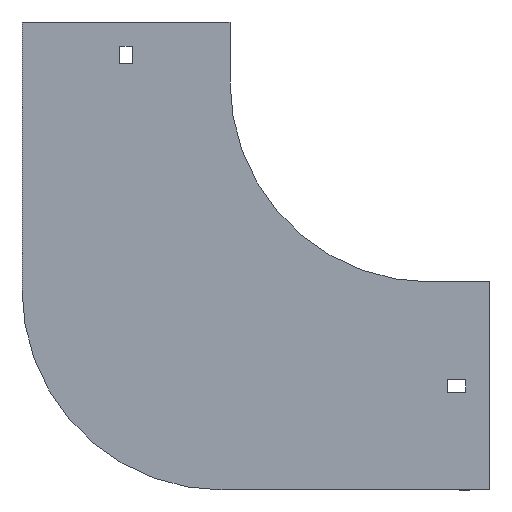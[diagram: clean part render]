
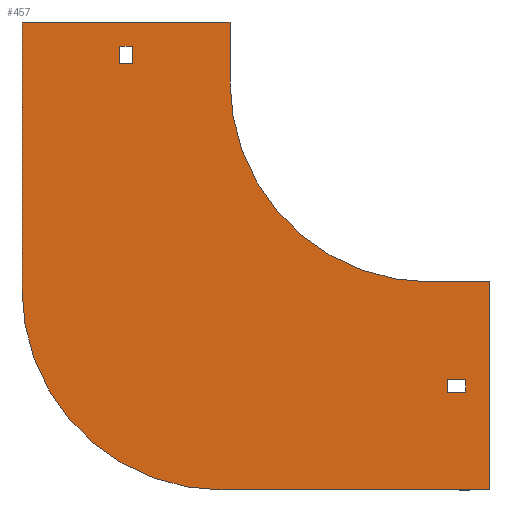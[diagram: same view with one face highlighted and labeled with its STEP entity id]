
A CAD part, front view. The second image highlights one B-rep face of the part: STEP entity #457.
In plain terms, the highlighted planar face has unit normal (0, -1, 0).
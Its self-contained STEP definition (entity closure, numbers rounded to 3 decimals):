
#6 = VECTOR ( 'NONE', #894, 1000. ) ;
#19 = FACE_OUTER_BOUND ( 'NONE', #246, .T. ) ;
#26 = FACE_BOUND ( 'NONE', #1164, .T. ) ;
#28 = EDGE_CURVE ( 'NONE', #492, #601, #1235, .T. ) ;
#49 = DIRECTION ( 'NONE',  ( 0., 0., 1. ) ) ;
#50 = VECTOR ( 'NONE', #378, 1000. ) ;
#68 = VERTEX_POINT ( 'NONE', #151 ) ;
#84 = EDGE_CURVE ( 'NONE', #481, #602, #1334, .T. ) ;
#90 = LINE ( 'NONE', #627, #1397 ) ;
#93 = DIRECTION ( 'NONE',  ( 0., 1., 0. ) ) ;
#95 = FACE_BOUND ( 'NONE', #880, .T. ) ;
#98 = LINE ( 'NONE', #1291, #1258 ) ;
#110 = ORIENTED_EDGE ( 'NONE', *, *, #459, .F. ) ;
#128 = CARTESIAN_POINT ( 'NONE',  ( -204., 0., -104. ) ) ;
#145 = DIRECTION ( 'NONE',  ( 0., 0., -1. ) ) ;
#151 = CARTESIAN_POINT ( 'NONE',  ( -104., 0., -204. ) ) ;
#161 = LINE ( 'NONE', #262, #184 ) ;
#164 = ORIENTED_EDGE ( 'NONE', *, *, #395, .F. ) ;
#178 = CARTESIAN_POINT ( 'NONE',  ( 0., 0., -100. ) ) ;
#184 = VECTOR ( 'NONE', #1342, 1000. ) ;
#228 = ORIENTED_EDGE ( 'NONE', *, *, #306, .F. ) ;
#237 = AXIS2_PLACEMENT_3D ( 'NONE', #771, #1092, #1208 ) ;
#246 = EDGE_LOOP ( 'NONE', ( #164, #1065, #811, #277, #926, #228, #1238, #345 ) ) ;
#262 = CARTESIAN_POINT ( 'NONE',  ( -155.25, 0., 18. ) ) ;
#265 = DIRECTION ( 'NONE',  ( 0., 0., 1. ) ) ;
#272 = ORIENTED_EDGE ( 'NONE', *, *, #1004, .F. ) ;
#273 = VECTOR ( 'NONE', #299, 1000. ) ;
#275 = CARTESIAN_POINT ( 'NONE',  ( -100., 0., 30. ) ) ;
#276 = EDGE_CURVE ( 'NONE', #68, #481, #388, .T. ) ;
#277 = ORIENTED_EDGE ( 'NONE', *, *, #1232, .F. ) ;
#284 = CARTESIAN_POINT ( 'NONE',  ( -204., 0., 30. ) ) ;
#299 = DIRECTION ( 'NONE',  ( 0., 0., 1. ) ) ;
#306 = EDGE_CURVE ( 'NONE', #968, #636, #784, .T. ) ;
#307 = ORIENTED_EDGE ( 'NONE', *, *, #28, .F. ) ;
#322 = VECTOR ( 'NONE', #49, 1000. ) ;
#325 = VECTOR ( 'NONE', #992, 1000. ) ;
#345 = ORIENTED_EDGE ( 'NONE', *, *, #758, .F. ) ;
#360 = CARTESIAN_POINT ( 'NONE',  ( 0., 0., -100. ) ) ;
#371 = CARTESIAN_POINT ( 'NONE',  ( -155.25, 0., 18. ) ) ;
#378 = DIRECTION ( 'NONE',  ( 0., 0., -1. ) ) ;
#388 = CIRCLE ( 'NONE', #1181, 100. ) ;
#395 = EDGE_CURVE ( 'NONE', #602, #662, #884, .T. ) ;
#405 = ORIENTED_EDGE ( 'NONE', *, *, #1107, .T. ) ;
#431 = CARTESIAN_POINT ( 'NONE',  ( -155.25, 0., 9. ) ) ;
#445 = EDGE_CURVE ( 'NONE', #1347, #891, #1190, .T. ) ;
#446 = VERTEX_POINT ( 'NONE', #1202 ) ;
#451 = CARTESIAN_POINT ( 'NONE',  ( -100., 0., 0. ) ) ;
#457 = ADVANCED_FACE ( 'NONE', ( #95, #19, #26 ), #875, .T. ) ;
#459 = EDGE_CURVE ( 'NONE', #1062, #492, #1105, .T. ) ;
#461 = VECTOR ( 'NONE', #265, 1000. ) ;
#478 = CARTESIAN_POINT ( 'NONE',  ( -204., 0., -104. ) ) ;
#481 = VERTEX_POINT ( 'NONE', #128 ) ;
#492 = VERTEX_POINT ( 'NONE', #658 ) ;
#520 = CARTESIAN_POINT ( 'NONE',  ( 18., 0., -148.75 ) ) ;
#582 = CARTESIAN_POINT ( 'NONE',  ( 9., 0., -155.25 ) ) ;
#592 = DIRECTION ( 'NONE',  ( 0., -1., 0. ) ) ;
#598 = LINE ( 'NONE', #687, #1079 ) ;
#601 = VERTEX_POINT ( 'NONE', #520 ) ;
#602 = VERTEX_POINT ( 'NONE', #284 ) ;
#615 = VECTOR ( 'NONE', #1373, 1000. ) ;
#621 = DIRECTION ( 'NONE',  ( 0., 0., -1. ) ) ;
#627 = CARTESIAN_POINT ( 'NONE',  ( -100., 0., 30. ) ) ;
#636 = VERTEX_POINT ( 'NONE', #739 ) ;
#647 = VERTEX_POINT ( 'NONE', #1253 ) ;
#656 = ORIENTED_EDGE ( 'NONE', *, *, #863, .T. ) ;
#658 = CARTESIAN_POINT ( 'NONE',  ( 18., 0., -155.25 ) ) ;
#662 = VERTEX_POINT ( 'NONE', #275 ) ;
#664 = DIRECTION ( 'NONE',  ( 1., 0., 0. ) ) ;
#687 = CARTESIAN_POINT ( 'NONE',  ( 30., 0., -100. ) ) ;
#709 = CARTESIAN_POINT ( 'NONE',  ( 9., 0., -155.25 ) ) ;
#732 = DIRECTION ( 'NONE',  ( 0., 0., -1. ) ) ;
#739 = CARTESIAN_POINT ( 'NONE',  ( 30., 0., -100. ) ) ;
#758 = EDGE_CURVE ( 'NONE', #662, #1388, #90, .T. ) ;
#760 = CARTESIAN_POINT ( 'NONE',  ( -148.75, 0., 9. ) ) ;
#771 = CARTESIAN_POINT ( 'NONE',  ( 0., 0., 0. ) ) ;
#784 = LINE ( 'NONE', #360, #6 ) ;
#811 = ORIENTED_EDGE ( 'NONE', *, *, #276, .F. ) ;
#816 = DIRECTION ( 'NONE',  ( 0., 0., -1. ) ) ;
#844 = CARTESIAN_POINT ( 'NONE',  ( -148.75, 0., 9. ) ) ;
#863 = EDGE_CURVE ( 'NONE', #647, #1347, #1385, .T. ) ;
#872 = CARTESIAN_POINT ( 'NONE',  ( -204., 0., 30. ) ) ;
#875 = PLANE ( 'NONE',  #237 ) ;
#877 = CARTESIAN_POINT ( 'NONE',  ( -155.25, 0., 9. ) ) ;
#879 = VERTEX_POINT ( 'NONE', #1055 ) ;
#880 = EDGE_LOOP ( 'NONE', ( #1295, #405, #656, #1059 ) ) ;
#884 = LINE ( 'NONE', #872, #905 ) ;
#891 = VERTEX_POINT ( 'NONE', #431 ) ;
#894 = DIRECTION ( 'NONE',  ( 1., 0., 0. ) ) ;
#903 = CARTESIAN_POINT ( 'NONE',  ( 9., 0., -148.75 ) ) ;
#905 = VECTOR ( 'NONE', #1076, 1000. ) ;
#926 = ORIENTED_EDGE ( 'NONE', *, *, #1283, .F. ) ;
#936 = VECTOR ( 'NONE', #621, 1000. ) ;
#939 = CARTESIAN_POINT ( 'NONE',  ( 0., 0., 0. ) ) ;
#968 = VERTEX_POINT ( 'NONE', #178 ) ;
#969 = DIRECTION ( 'NONE',  ( 0., 0., 1. ) ) ;
#990 = CARTESIAN_POINT ( 'NONE',  ( 9., 0., -155.25 ) ) ;
#992 = DIRECTION ( 'NONE',  ( -1., 0., 0. ) ) ;
#1004 = EDGE_CURVE ( 'NONE', #879, #1062, #1125, .T. ) ;
#1031 = CIRCLE ( 'NONE', #1192, 100. ) ;
#1039 = LINE ( 'NONE', #903, #615 ) ;
#1055 = CARTESIAN_POINT ( 'NONE',  ( 9., 0., -148.75 ) ) ;
#1059 = ORIENTED_EDGE ( 'NONE', *, *, #445, .T. ) ;
#1062 = VERTEX_POINT ( 'NONE', #709 ) ;
#1065 = ORIENTED_EDGE ( 'NONE', *, *, #84, .F. ) ;
#1075 = CARTESIAN_POINT ( 'NONE',  ( -104., 0., -104. ) ) ;
#1076 = DIRECTION ( 'NONE',  ( 1., 0., 0. ) ) ;
#1079 = VECTOR ( 'NONE', #145, 1000. ) ;
#1082 = ORIENTED_EDGE ( 'NONE', *, *, #1086, .F. ) ;
#1086 = EDGE_CURVE ( 'NONE', #601, #879, #1039, .T. ) ;
#1092 = DIRECTION ( 'NONE',  ( 0., -1., 0. ) ) ;
#1100 = VERTEX_POINT ( 'NONE', #371 ) ;
#1105 = LINE ( 'NONE', #990, #1393 ) ;
#1107 = EDGE_CURVE ( 'NONE', #1100, #647, #161, .T. ) ;
#1125 = LINE ( 'NONE', #582, #50 ) ;
#1156 = LINE ( 'NONE', #1193, #273 ) ;
#1164 = EDGE_LOOP ( 'NONE', ( #307, #110, #272, #1082 ) ) ;
#1181 = AXIS2_PLACEMENT_3D ( 'NONE', #1075, #93, #969 ) ;
#1190 = LINE ( 'NONE', #877, #325 ) ;
#1192 = AXIS2_PLACEMENT_3D ( 'NONE', #939, #592, #816 ) ;
#1193 = CARTESIAN_POINT ( 'NONE',  ( -155.25, 0., 9. ) ) ;
#1202 = CARTESIAN_POINT ( 'NONE',  ( 30., 0., -204. ) ) ;
#1208 = DIRECTION ( 'NONE',  ( 0., 0., -1. ) ) ;
#1212 = EDGE_CURVE ( 'NONE', #891, #1100, #1156, .T. ) ;
#1232 = EDGE_CURVE ( 'NONE', #446, #68, #98, .T. ) ;
#1235 = LINE ( 'NONE', #1343, #461 ) ;
#1238 = ORIENTED_EDGE ( 'NONE', *, *, #1271, .F. ) ;
#1253 = CARTESIAN_POINT ( 'NONE',  ( -148.75, 0., 18. ) ) ;
#1258 = VECTOR ( 'NONE', #1402, 1000. ) ;
#1271 = EDGE_CURVE ( 'NONE', #1388, #968, #1031, .T. ) ;
#1283 = EDGE_CURVE ( 'NONE', #636, #446, #598, .T. ) ;
#1291 = CARTESIAN_POINT ( 'NONE',  ( 30., 0., -204. ) ) ;
#1295 = ORIENTED_EDGE ( 'NONE', *, *, #1212, .T. ) ;
#1334 = LINE ( 'NONE', #478, #322 ) ;
#1342 = DIRECTION ( 'NONE',  ( 1., 0., 0. ) ) ;
#1343 = CARTESIAN_POINT ( 'NONE',  ( 18., 0., -155.25 ) ) ;
#1347 = VERTEX_POINT ( 'NONE', #844 ) ;
#1373 = DIRECTION ( 'NONE',  ( -1., 0., 0. ) ) ;
#1385 = LINE ( 'NONE', #760, #936 ) ;
#1388 = VERTEX_POINT ( 'NONE', #451 ) ;
#1393 = VECTOR ( 'NONE', #664, 1000. ) ;
#1397 = VECTOR ( 'NONE', #732, 1000. ) ;
#1402 = DIRECTION ( 'NONE',  ( -1., 0., 0. ) ) ;
